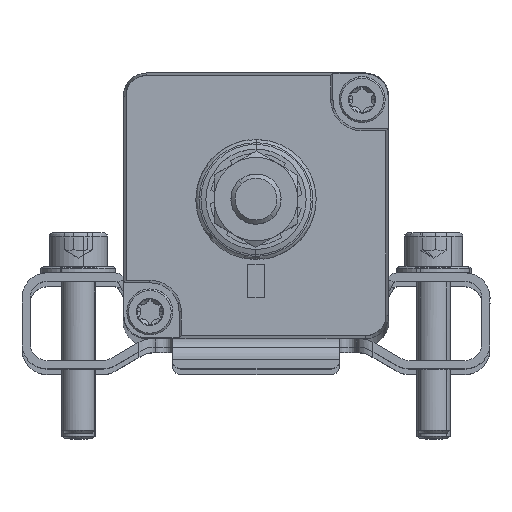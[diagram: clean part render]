
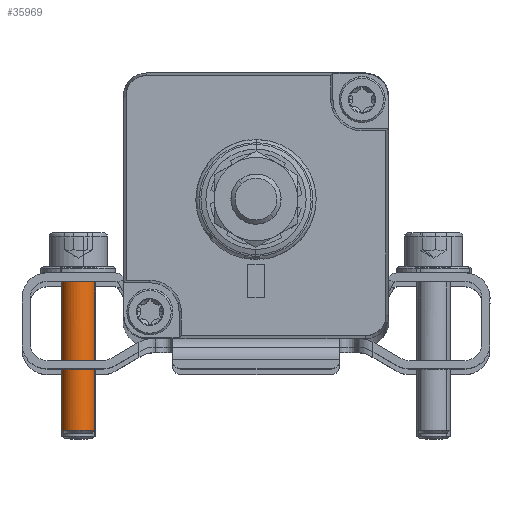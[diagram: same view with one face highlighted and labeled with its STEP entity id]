
A CAD part, top view. The second image highlights one B-rep face of the part: STEP entity #35969.
In plain terms, the highlighted cylindrical face has radius 2 mm (diameter 4 mm), a partial arc.
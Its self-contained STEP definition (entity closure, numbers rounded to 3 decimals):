
#23118 = VERTEX_POINT ( 'NONE', #37989 ) ;
#23149 = VERTEX_POINT ( 'NONE', #38022 ) ;
#23418 = EDGE_CURVE ( 'NONE', #23149, #23118, #38151, .T. ) ;
#26015 = VERTEX_POINT ( 'NONE', #39032 ) ;
#27837 = VERTEX_POINT ( 'NONE', #39445 ) ;
#28074 = EDGE_CURVE ( 'NONE', #23149, #27837, #39430, .T. ) ;
#29217 = VERTEX_POINT ( 'NONE', #39718 ) ;
#29981 = EDGE_CURVE ( 'NONE', #29217, #26015, #39916, .T. ) ;
#32032 = EDGE_CURVE ( 'NONE', #23118, #26015, #40751, .T. ) ;
#35617 = EDGE_LOOP ( 'NONE', ( #35651, #35657, #35658, #35659, #35652 ) ) ;
#35651 = ORIENTED_EDGE ( 'NONE', *, *, #28074, .F. ) ;
#35652 = ORIENTED_EDGE ( 'NONE', *, *, #35949, .F. ) ;
#35657 = ORIENTED_EDGE ( 'NONE', *, *, #23418, .T. ) ;
#35658 = ORIENTED_EDGE ( 'NONE', *, *, #32032, .T. ) ;
#35659 = ORIENTED_EDGE ( 'NONE', *, *, #29981, .F. ) ;
#35949 = EDGE_CURVE ( 'NONE', #27837, #29217, #41839, .T. ) ;
#35969 = ADVANCED_FACE ( 'NONE', ( #41924 ), #41963, .T. ) ;
#37989 = CARTESIAN_POINT ( 'NONE',  ( -23.216, -7.178, 116.619 ) ) ;
#38022 = CARTESIAN_POINT ( 'NONE',  ( -19.284, -7.178, 115.881 ) ) ;
#38147 = DIRECTION ( 'NONE',  ( -0.983, 0., 0.184 ) ) ;
#38148 = DIRECTION ( 'NONE',  ( 0., -1., 0. ) ) ;
#38149 = CARTESIAN_POINT ( 'NONE',  ( -21.25, -7.178, 116.25 ) ) ;
#38150 = AXIS2_PLACEMENT_3D ( 'NONE', #38149, #38148, #38147 ) ;
#38151 = CIRCLE ( 'NONE', #38150, 2. ) ;
#39032 = CARTESIAN_POINT ( 'NONE',  ( -23.216, -26.628, 116.619 ) ) ;
#39427 = DIRECTION ( 'NONE',  ( 0., -1., 0. ) ) ;
#39428 = VECTOR ( 'NONE', #39427, 1000. ) ;
#39429 = CARTESIAN_POINT ( 'NONE',  ( -19.284, -7.178, 115.881 ) ) ;
#39430 = LINE ( 'NONE', #39429, #39428 ) ;
#39445 = CARTESIAN_POINT ( 'NONE',  ( -19.284, -26.628, 115.881 ) ) ;
#39718 = CARTESIAN_POINT ( 'NONE',  ( -20.881, -26.628, 118.216 ) ) ;
#39912 = DIRECTION ( 'NONE',  ( -0.983, 0., 0.184 ) ) ;
#39913 = DIRECTION ( 'NONE',  ( 0., -1., 0. ) ) ;
#39914 = CARTESIAN_POINT ( 'NONE',  ( -21.25, -26.628, 116.25 ) ) ;
#39915 = AXIS2_PLACEMENT_3D ( 'NONE', #39914, #39913, #39912 ) ;
#39916 = CIRCLE ( 'NONE', #39915, 2. ) ;
#40748 = DIRECTION ( 'NONE',  ( 0., -1., 0. ) ) ;
#40749 = VECTOR ( 'NONE', #40748, 1000. ) ;
#40750 = CARTESIAN_POINT ( 'NONE',  ( -23.216, -7.178, 116.619 ) ) ;
#40751 = LINE ( 'NONE', #40750, #40749 ) ;
#41835 = DIRECTION ( 'NONE',  ( -0.983, 0., 0.184 ) ) ;
#41836 = DIRECTION ( 'NONE',  ( 0., -1., 0. ) ) ;
#41837 = CARTESIAN_POINT ( 'NONE',  ( -21.25, -26.628, 116.25 ) ) ;
#41838 = AXIS2_PLACEMENT_3D ( 'NONE', #41837, #41836, #41835 ) ;
#41839 = CIRCLE ( 'NONE', #41838, 2. ) ;
#41924 = FACE_OUTER_BOUND ( 'NONE', #35617, .T. ) ;
#41960 = DIRECTION ( 'NONE',  ( -0.983, 0., 0.184 ) ) ;
#41961 = DIRECTION ( 'NONE',  ( 0., -1., 0. ) ) ;
#41962 = AXIS2_PLACEMENT_3D ( 'NONE', #41964, #41961, #41960 ) ;
#41963 = CYLINDRICAL_SURFACE ( 'NONE', #41962, 2. ) ;
#41964 = CARTESIAN_POINT ( 'NONE',  ( -21.25, -7.178, 116.25 ) ) ;
